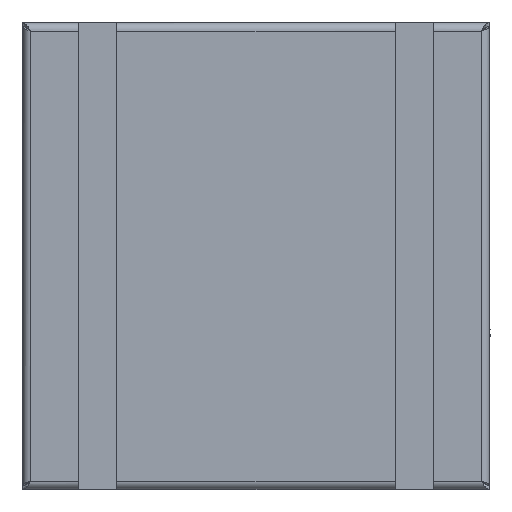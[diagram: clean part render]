
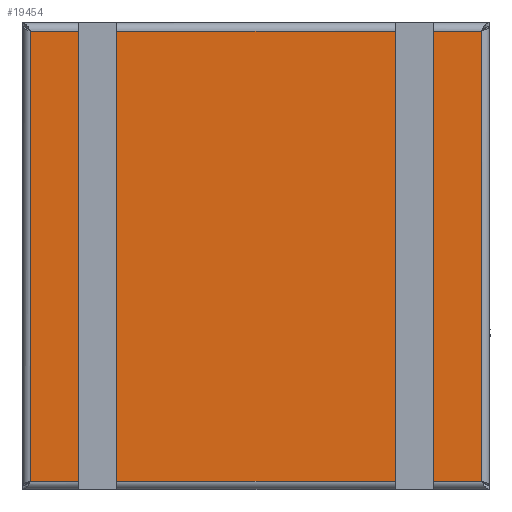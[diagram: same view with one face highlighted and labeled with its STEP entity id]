
A CAD part, top view. The second image highlights one B-rep face of the part: STEP entity #19454.
In plain terms, the highlighted planar face has unit normal (0, 0, 1).
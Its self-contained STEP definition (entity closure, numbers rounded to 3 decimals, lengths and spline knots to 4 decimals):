
#28 = ORIENTED_EDGE ( 'NONE', *, *, #17254, .T. ) ;
#1220 = CARTESIAN_POINT ( 'NONE',  ( 0., 0., 0. ) ) ;
#2274 = VERTEX_POINT ( 'NONE', #54090 ) ;
#5548 = LINE ( 'NONE', #29315, #19374 ) ;
#6178 = CARTESIAN_POINT ( 'NONE',  ( -3.015, -3.015, 0. ) ) ;
#7172 = PLANE ( 'NONE',  #24083 ) ;
#8602 = CARTESIAN_POINT ( 'NONE',  ( -3.015, -3.015, 0. ) ) ;
#11305 = VECTOR ( 'NONE', #59362, 39.3701 ) ;
#13116 = DIRECTION ( 'NONE',  ( -1., 0., 0. ) ) ;
#13503 = EDGE_CURVE ( 'NONE', #2274, #15167, #5548, .T. ) ;
#15167 = VERTEX_POINT ( 'NONE', #36984 ) ;
#17254 = EDGE_CURVE ( 'NONE', #35263, #2274, #58256, .T. ) ;
#19374 = VECTOR ( 'NONE', #23678, 39.3701 ) ;
#19454 = ADVANCED_FACE ( 'NONE', ( #58052 ), #7172, .F. ) ;
#23257 = CARTESIAN_POINT ( 'NONE',  ( -3.015, 3.015, 0. ) ) ;
#23678 = DIRECTION ( 'NONE',  ( -1., 0., 0. ) ) ;
#24083 = AXIS2_PLACEMENT_3D ( 'NONE', #1220, #58912, #13116 ) ;
#29315 = CARTESIAN_POINT ( 'NONE',  ( 3.015, 3.015, 0. ) ) ;
#29608 = VECTOR ( 'NONE', #64408, 39.3701 ) ;
#29861 = ORIENTED_EDGE ( 'NONE', *, *, #44992, .T. ) ;
#30282 = EDGE_CURVE ( 'NONE', #15167, #34803, #72953, .T. ) ;
#33911 = LINE ( 'NONE', #6178, #51376 ) ;
#34803 = VERTEX_POINT ( 'NONE', #8602 ) ;
#35263 = VERTEX_POINT ( 'NONE', #36055 ) ;
#36055 = CARTESIAN_POINT ( 'NONE',  ( 3.015, -3.015, 0. ) ) ;
#36984 = CARTESIAN_POINT ( 'NONE',  ( -3.015, 3.015, 0. ) ) ;
#44992 = EDGE_CURVE ( 'NONE', #34803, #35263, #33911, .T. ) ;
#47371 = DIRECTION ( 'NONE',  ( 1., 0., 0. ) ) ;
#47542 = CARTESIAN_POINT ( 'NONE',  ( 3.015, -3.015, 0. ) ) ;
#51376 = VECTOR ( 'NONE', #47371, 39.3701 ) ;
#51953 = ORIENTED_EDGE ( 'NONE', *, *, #30282, .T. ) ;
#53786 = EDGE_LOOP ( 'NONE', ( #29861, #28, #67776, #51953 ) ) ;
#54090 = CARTESIAN_POINT ( 'NONE',  ( 3.015, 3.015, 0. ) ) ;
#58052 = FACE_OUTER_BOUND ( 'NONE', #53786, .T. ) ;
#58256 = LINE ( 'NONE', #47542, #11305 ) ;
#58912 = DIRECTION ( 'NONE',  ( 0., 0., -1. ) ) ;
#59362 = DIRECTION ( 'NONE',  ( 0., 1., 0. ) ) ;
#64408 = DIRECTION ( 'NONE',  ( 0., -1., 0. ) ) ;
#67776 = ORIENTED_EDGE ( 'NONE', *, *, #13503, .T. ) ;
#72953 = LINE ( 'NONE', #23257, #29608 ) ;
